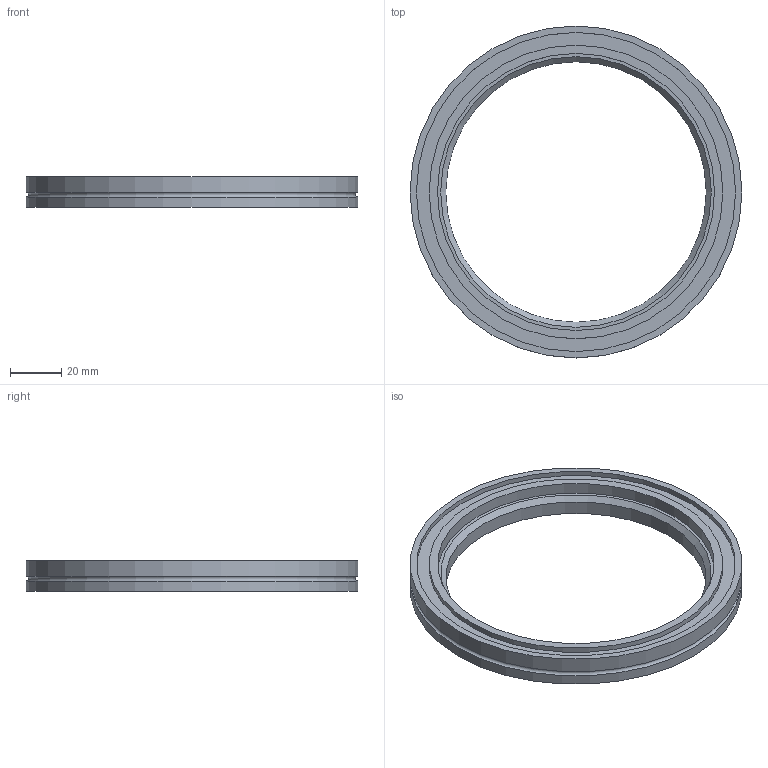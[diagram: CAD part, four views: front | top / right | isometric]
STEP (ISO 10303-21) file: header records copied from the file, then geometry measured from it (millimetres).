
FILE_DESCRIPTION( ( 'Unknown' ), '1' );
FILE_NAME( 'X:/Daten ( aktueller Bestand )/Projekte und Zeichnungen/Solid Edge/10 ISO-K Bauteile/ISO-K-Anschweißflansch/6512.stp', 'Unknown', ( 'Unknown' ), ( 'Unknown' ), 'XStep 1.0', 'Unknown', ' ' );
FILE_SCHEMA( ( 'automotive_design' ) );
Length unit declared in the file: millimetre
Products named in the file (1): 1
Bounding box: 130 x 130 x 12 mm (x, y, z)
Volume: 51331.1 mm3; surface area: 20633.4 mm2
Topology: 1 solids, 1 shells, 13 faces, 21 edges, 13 vertices
Faces by surface type: cylinder 6, plane 5, cone 1, torus 1
Full cylindrical faces by diameter (mm): 102 x1, 108.5 x1, 115 x1, 125 x1, 130 x2
Entity records: 388 total; most frequent: DIRECTION 54, CARTESIAN_POINT 40, AXIS2_PLACEMENT_3D 27, EDGE_LOOP 26, ORIENTED_EDGE 26, FACE_OUTER_BOUND 20, STYLED_ITEM 13, PRESENTATION_STYLE_ASSIGNMENT 13
